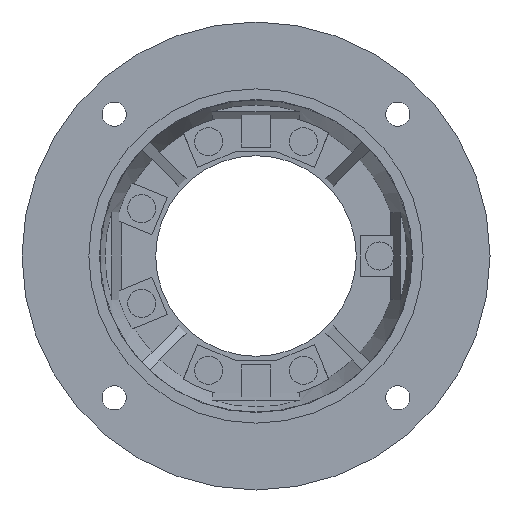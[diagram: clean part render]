
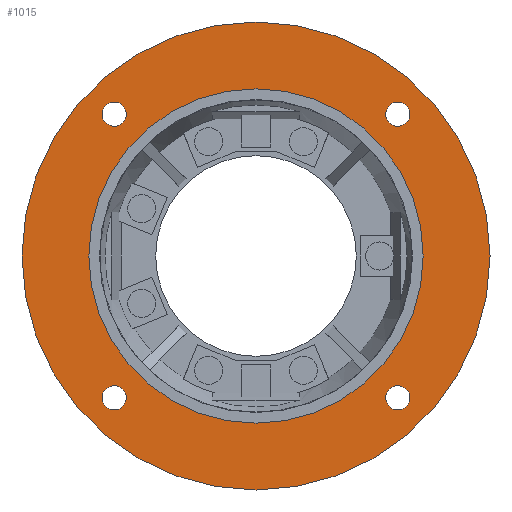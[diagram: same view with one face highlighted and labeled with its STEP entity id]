
A CAD part, left-side view. The second image highlights one B-rep face of the part: STEP entity #1015.
In plain terms, the highlighted planar face has unit normal (-1, 0, 0) as drawn and (1, 0, 0) by its records, which use the part's own axes.
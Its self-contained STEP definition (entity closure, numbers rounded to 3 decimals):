
#1015=ADVANCED_FACE('',(#1156,#1128,#1129,#1130,#1131,#1132),#3101,.T.);
#1128=FACE_BOUND('',#1290,.T.);
#1129=FACE_BOUND('',#1291,.T.);
#1130=FACE_BOUND('',#1292,.T.);
#1131=FACE_BOUND('',#1293,.T.);
#1132=FACE_BOUND('',#1294,.T.);
#1156=FACE_OUTER_BOUND('',#1289,.T.);
#1289=EDGE_LOOP('',(#1639,#1640));
#1290=EDGE_LOOP('',(#1641,#1642));
#1291=EDGE_LOOP('',(#1643,#1644));
#1292=EDGE_LOOP('',(#1645,#1646));
#1293=EDGE_LOOP('',(#1647,#1648));
#1294=EDGE_LOOP('',(#1649,#1650));
#1639=ORIENTED_EDGE('',*,*,#2358,.F.);
#1640=ORIENTED_EDGE('',*,*,#2183,.F.);
#1641=ORIENTED_EDGE('',*,*,#2397,.F.);
#1642=ORIENTED_EDGE('',*,*,#2353,.F.);
#1643=ORIENTED_EDGE('',*,*,#2395,.F.);
#1644=ORIENTED_EDGE('',*,*,#2349,.F.);
#1645=ORIENTED_EDGE('',*,*,#2393,.F.);
#1646=ORIENTED_EDGE('',*,*,#2345,.F.);
#1647=ORIENTED_EDGE('',*,*,#2391,.F.);
#1648=ORIENTED_EDGE('',*,*,#2341,.F.);
#1649=ORIENTED_EDGE('',*,*,#2362,.F.);
#1650=ORIENTED_EDGE('',*,*,#2187,.F.);
#2183=EDGE_CURVE('',#2977,#3023,#2436,.T.);
#2187=EDGE_CURVE('',#2978,#3024,#2439,.T.);
#2341=EDGE_CURVE('',#2982,#3044,#2464,.T.);
#2345=EDGE_CURVE('',#2981,#3045,#2467,.T.);
#2349=EDGE_CURVE('',#2980,#3046,#2470,.T.);
#2353=EDGE_CURVE('',#2979,#3047,#2473,.T.);
#2358=EDGE_CURVE('',#3023,#2977,#2476,.T.);
#2362=EDGE_CURVE('',#3024,#2978,#2479,.T.);
#2391=EDGE_CURVE('',#3044,#2982,#2498,.T.);
#2393=EDGE_CURVE('',#3045,#2981,#2499,.T.);
#2395=EDGE_CURVE('',#3046,#2980,#2500,.T.);
#2397=EDGE_CURVE('',#3047,#2979,#2501,.T.);
#2436=TRIMMED_CURVE($,#2531,(#4663),(#4664),.T.,.CARTESIAN.);
#2439=TRIMMED_CURVE($,#2534,(#4674),(#4675),.T.,.CARTESIAN.);
#2464=TRIMMED_CURVE($,#2559,(#5071),(#5072),.T.,.CARTESIAN.);
#2467=TRIMMED_CURVE($,#2562,(#5082),(#5083),.T.,.CARTESIAN.);
#2470=TRIMMED_CURVE($,#2565,(#5093),(#5094),.T.,.CARTESIAN.);
#2473=TRIMMED_CURVE($,#2568,(#5104),(#5105),.T.,.CARTESIAN.);
#2476=TRIMMED_CURVE($,#2571,(#5117),(#5118),.T.,.CARTESIAN.);
#2479=TRIMMED_CURVE($,#2574,(#5128),(#5129),.T.,.CARTESIAN.);
#2498=TRIMMED_CURVE($,#2593,(#5205),(#5206),.T.,.CARTESIAN.);
#2499=TRIMMED_CURVE($,#2594,(#5210),(#5211),.T.,.CARTESIAN.);
#2500=TRIMMED_CURVE($,#2595,(#5215),(#5216),.T.,.CARTESIAN.);
#2501=TRIMMED_CURVE($,#2596,(#5220),(#5221),.T.,.CARTESIAN.);
#2531=CIRCLE('',#3488,175.);
#2534=CIRCLE('',#3491,125.);
#2559=CIRCLE('',#3516,9.);
#2562=CIRCLE('',#3519,9.);
#2565=CIRCLE('',#3522,9.);
#2568=CIRCLE('',#3525,9.);
#2571=CIRCLE('',#3528,175.);
#2574=CIRCLE('',#3531,125.);
#2593=CIRCLE('',#3550,9.);
#2594=CIRCLE('',#3551,9.);
#2595=CIRCLE('',#3552,9.);
#2596=CIRCLE('',#3553,9.);
#2977=VERTEX_POINT('',#4295);
#2978=VERTEX_POINT('',#4296);
#2979=VERTEX_POINT('',#4297);
#2980=VERTEX_POINT('',#4298);
#2981=VERTEX_POINT('',#4299);
#2982=VERTEX_POINT('',#4300);
#3023=VERTEX_POINT('',#4341);
#3024=VERTEX_POINT('',#4342);
#3044=VERTEX_POINT('',#4362);
#3045=VERTEX_POINT('',#4363);
#3046=VERTEX_POINT('',#4364);
#3047=VERTEX_POINT('',#4365);
#3101=PLANE('',#3359);
#3359=AXIS2_PLACEMENT_3D('',#4024,#3572,$);
#3488=AXIS2_PLACEMENT_3D($,#4662,#3730,#3731);
#3491=AXIS2_PLACEMENT_3D($,#4673,#3736,#3737);
#3516=AXIS2_PLACEMENT_3D($,#5070,#3786,#3787);
#3519=AXIS2_PLACEMENT_3D($,#5081,#3792,#3793);
#3522=AXIS2_PLACEMENT_3D($,#5092,#3798,#3799);
#3525=AXIS2_PLACEMENT_3D($,#5103,#3804,#3805);
#3528=AXIS2_PLACEMENT_3D($,#5116,#3810,#3811);
#3531=AXIS2_PLACEMENT_3D($,#5127,#3816,#3817);
#3550=AXIS2_PLACEMENT_3D($,#5204,#3854,#3855);
#3551=AXIS2_PLACEMENT_3D($,#5209,#3856,#3857);
#3552=AXIS2_PLACEMENT_3D($,#5214,#3858,#3859);
#3553=AXIS2_PLACEMENT_3D($,#5219,#3860,#3861);
#3572=DIRECTION('',(1.,0.,0.));
#3730=DIRECTION('',(-1.,0.,0.));
#3731=DIRECTION('',(0.,0.,-1.));
#3736=DIRECTION('',(1.,0.,0.));
#3737=DIRECTION('',(0.,0.,-1.));
#3786=DIRECTION('',(1.,0.,0.));
#3787=DIRECTION('',(0.,0.,1.));
#3792=DIRECTION('',(1.,0.,0.));
#3793=DIRECTION('',(0.,0.,1.));
#3798=DIRECTION('',(1.,0.,0.));
#3799=DIRECTION('',(0.,0.,1.));
#3804=DIRECTION('',(1.,0.,0.));
#3805=DIRECTION('',(0.,0.,1.));
#3810=DIRECTION('',(-1.,0.,0.));
#3811=DIRECTION('',(0.,0.,1.));
#3816=DIRECTION('',(1.,0.,0.));
#3817=DIRECTION('',(0.,0.,1.));
#3854=DIRECTION('',(1.,0.,0.));
#3855=DIRECTION('',(0.,0.,-1.));
#3856=DIRECTION('',(1.,0.,0.));
#3857=DIRECTION('',(0.,0.,-1.));
#3858=DIRECTION('',(1.,0.,0.));
#3859=DIRECTION('',(0.,0.,-1.));
#3860=DIRECTION('',(1.,0.,0.));
#3861=DIRECTION('',(0.,0.,-1.));
#4024=CARTESIAN_POINT('',(42.5,-210.,-210.));
#4295=CARTESIAN_POINT('',(42.5,0.,-175.));
#4296=CARTESIAN_POINT('',(42.5,0.,-125.));
#4297=CARTESIAN_POINT('',(42.5,106.066,115.066));
#4298=CARTESIAN_POINT('',(42.5,-106.066,115.066));
#4299=CARTESIAN_POINT('',(42.5,-106.066,-97.066));
#4300=CARTESIAN_POINT('',(42.5,106.066,-97.066));
#4341=CARTESIAN_POINT('',(42.5,0.,175.));
#4342=CARTESIAN_POINT('',(42.5,0.,125.));
#4362=CARTESIAN_POINT('',(42.5,106.066,-115.066));
#4363=CARTESIAN_POINT('',(42.5,-106.066,-115.066));
#4364=CARTESIAN_POINT('',(42.5,-106.066,97.066));
#4365=CARTESIAN_POINT('',(42.5,106.066,97.066));
#4662=CARTESIAN_POINT('',(42.5,0.,0.));
#4663=CARTESIAN_POINT('',(42.5,0.,-175.));
#4664=CARTESIAN_POINT('',(42.5,0.,175.));
#4673=CARTESIAN_POINT('',(42.5,0.,0.));
#4674=CARTESIAN_POINT('',(42.5,0.,-125.));
#4675=CARTESIAN_POINT('',(42.5,0.,125.));
#5070=CARTESIAN_POINT('',(42.5,106.066,-106.066));
#5071=CARTESIAN_POINT('',(42.5,106.066,-97.066));
#5072=CARTESIAN_POINT('',(42.5,106.066,-115.066));
#5081=CARTESIAN_POINT('',(42.5,-106.066,-106.066));
#5082=CARTESIAN_POINT('',(42.5,-106.066,-97.066));
#5083=CARTESIAN_POINT('',(42.5,-106.066,-115.066));
#5092=CARTESIAN_POINT('',(42.5,-106.066,106.066));
#5093=CARTESIAN_POINT('',(42.5,-106.066,115.066));
#5094=CARTESIAN_POINT('',(42.5,-106.066,97.066));
#5103=CARTESIAN_POINT('',(42.5,106.066,106.066));
#5104=CARTESIAN_POINT('',(42.5,106.066,115.066));
#5105=CARTESIAN_POINT('',(42.5,106.066,97.066));
#5116=CARTESIAN_POINT('',(42.5,0.,0.));
#5117=CARTESIAN_POINT('',(42.5,0.,175.));
#5118=CARTESIAN_POINT('',(42.5,0.,-175.));
#5127=CARTESIAN_POINT('',(42.5,0.,0.));
#5128=CARTESIAN_POINT('',(42.5,0.,125.));
#5129=CARTESIAN_POINT('',(42.5,0.,-125.));
#5204=CARTESIAN_POINT('',(42.5,106.066,-106.066));
#5205=CARTESIAN_POINT('',(42.5,106.066,-115.066));
#5206=CARTESIAN_POINT('',(42.5,106.066,-97.066));
#5209=CARTESIAN_POINT('',(42.5,-106.066,-106.066));
#5210=CARTESIAN_POINT('',(42.5,-106.066,-115.066));
#5211=CARTESIAN_POINT('',(42.5,-106.066,-97.066));
#5214=CARTESIAN_POINT('',(42.5,-106.066,106.066));
#5215=CARTESIAN_POINT('',(42.5,-106.066,97.066));
#5216=CARTESIAN_POINT('',(42.5,-106.066,115.066));
#5219=CARTESIAN_POINT('',(42.5,106.066,106.066));
#5220=CARTESIAN_POINT('',(42.5,106.066,97.066));
#5221=CARTESIAN_POINT('',(42.5,106.066,115.066));
